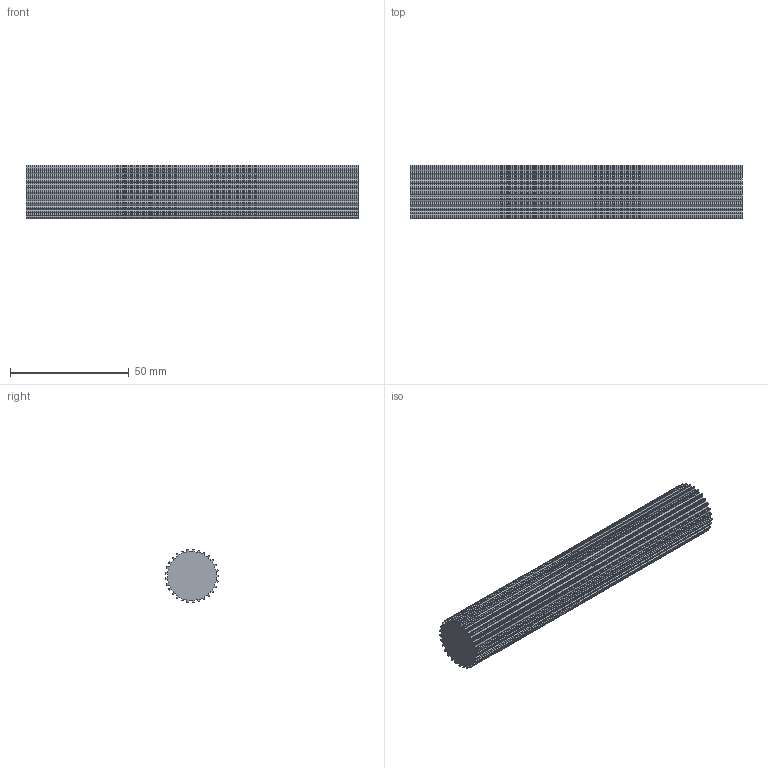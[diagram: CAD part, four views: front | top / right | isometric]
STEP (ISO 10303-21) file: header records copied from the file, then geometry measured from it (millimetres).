
FILE_DESCRIPTION( ( 'STEP AP214' ), '1' );
FILE_NAME( 'C:/Users/StangenbergN/Documents/CAD_Step/1/16092900.stp', '2019-07-25T19:41:41', ( '' ), ( '' ), ' ', 'PARTsolutions', ' ' );
FILE_SCHEMA( ( 'AUTOMOTIVE_DESIGN { 1 0 10303 214 1 1 1 1 }' ) );
Length unit declared in the file: millimetre
Products named in the file (1): _16092900
Bounding box: 140 x 22.52 x 22.55 mm (x, y, z)
Volume: 50038.7 mm3; surface area: 15266.5 mm2
Topology: 1 solids, 1 shells, 234 faces, 696 edges, 464 vertices
Faces by surface type: cylinder 145, plane 89
Entity records: 9858 total; most frequent: DIRECTION 1456, CARTESIAN_POINT 1395, ORIENTED_EDGE 1392, EDGE_CURVE 696, AXIS2_PLACEMENT_3D 525, VERTEX_POINT 464, LINE 406, VECTOR 406
